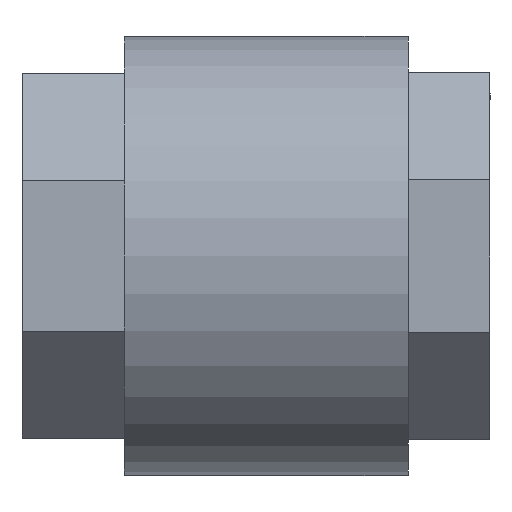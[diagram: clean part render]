
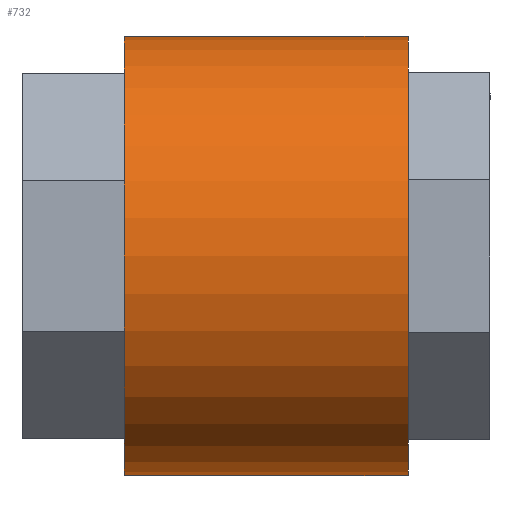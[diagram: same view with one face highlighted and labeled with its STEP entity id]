
A CAD part, front view. The second image highlights one B-rep face of the part: STEP entity #732.
In plain terms, the highlighted cylindrical face has radius 1.555 mm (diameter 3.11 mm), a full revolution.
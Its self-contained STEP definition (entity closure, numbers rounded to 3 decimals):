
#215 = EDGE_CURVE('',#216,#216,#218,.T.);
#216 = VERTEX_POINT('',#217);
#217 = CARTESIAN_POINT('',(0.725,-8.396,2.998));
#218 = SURFACE_CURVE('',#219,(#224,#236),.PCURVE_S1.);
#219 = CIRCLE('',#220,1.555);
#220 = AXIS2_PLACEMENT_3D('',#221,#222,#223);
#221 = CARTESIAN_POINT('',(0.725,-6.841,2.998));
#222 = DIRECTION('',(-1.,0.,0.));
#223 = DIRECTION('',(0.,-1.,0.));
#224 = PCURVE('',#225,#230);
#225 = PLANE('',#226);
#226 = AXIS2_PLACEMENT_3D('',#227,#228,#229);
#227 = CARTESIAN_POINT('',(0.725,-6.841,2.998));
#228 = DIRECTION('',(-1.,0.,0.));
#229 = DIRECTION('',(0.,0.,1.));
#230 = DEFINITIONAL_REPRESENTATION('',(#231),#235);
#231 = CIRCLE('',#232,1.555);
#232 = AXIS2_PLACEMENT_2D('',#233,#234);
#233 = CARTESIAN_POINT('',(0.,0.));
#234 = DIRECTION('',(0.,-1.));
#235 = ( GEOMETRIC_REPRESENTATION_CONTEXT(2) 
PARAMETRIC_REPRESENTATION_CONTEXT() REPRESENTATION_CONTEXT('2D SPACE',''
  ) );
#236 = PCURVE('',#237,#242);
#237 = CYLINDRICAL_SURFACE('',#238,1.555);
#238 = AXIS2_PLACEMENT_3D('',#239,#240,#241);
#239 = CARTESIAN_POINT('',(0.725,-6.841,2.998));
#240 = DIRECTION('',(1.,0.,0.));
#241 = DIRECTION('',(0.,-1.,0.));
#242 = DEFINITIONAL_REPRESENTATION('',(#243),#247);
#243 = LINE('',#244,#245);
#244 = CARTESIAN_POINT('',(6.283,0.));
#245 = VECTOR('',#246,1.);
#246 = DIRECTION('',(-1.,0.));
#247 = ( GEOMETRIC_REPRESENTATION_CONTEXT(2) 
PARAMETRIC_REPRESENTATION_CONTEXT() REPRESENTATION_CONTEXT('2D SPACE',''
  ) );
#478 = EDGE_CURVE('',#479,#479,#481,.T.);
#479 = VERTEX_POINT('',#480);
#480 = CARTESIAN_POINT('',(2.735,-8.396,2.998));
#481 = SURFACE_CURVE('',#482,(#487,#499),.PCURVE_S1.);
#482 = CIRCLE('',#483,1.555);
#483 = AXIS2_PLACEMENT_3D('',#484,#485,#486);
#484 = CARTESIAN_POINT('',(2.735,-6.841,2.998));
#485 = DIRECTION('',(-1.,0.,0.));
#486 = DIRECTION('',(0.,-1.,0.));
#487 = PCURVE('',#488,#493);
#488 = PLANE('',#489);
#489 = AXIS2_PLACEMENT_3D('',#490,#491,#492);
#490 = CARTESIAN_POINT('',(2.735,-6.841,2.998));
#491 = DIRECTION('',(-1.,0.,0.));
#492 = DIRECTION('',(0.,0.,1.));
#493 = DEFINITIONAL_REPRESENTATION('',(#494),#498);
#494 = CIRCLE('',#495,1.555);
#495 = AXIS2_PLACEMENT_2D('',#496,#497);
#496 = CARTESIAN_POINT('',(0.,0.));
#497 = DIRECTION('',(0.,-1.));
#498 = ( GEOMETRIC_REPRESENTATION_CONTEXT(2) 
PARAMETRIC_REPRESENTATION_CONTEXT() REPRESENTATION_CONTEXT('2D SPACE',''
  ) );
#499 = PCURVE('',#237,#500);
#500 = DEFINITIONAL_REPRESENTATION('',(#501),#505);
#501 = LINE('',#502,#503);
#502 = CARTESIAN_POINT('',(6.283,2.01));
#503 = VECTOR('',#504,1.);
#504 = DIRECTION('',(-1.,0.));
#505 = ( GEOMETRIC_REPRESENTATION_CONTEXT(2) 
PARAMETRIC_REPRESENTATION_CONTEXT() REPRESENTATION_CONTEXT('2D SPACE',''
  ) );
#732 = ADVANCED_FACE('',(#733),#237,.T.);
#733 = FACE_BOUND('',#734,.T.);
#734 = EDGE_LOOP('',(#735,#736,#756,#757));
#735 = ORIENTED_EDGE('',*,*,#478,.T.);
#736 = ORIENTED_EDGE('',*,*,#737,.F.);
#737 = EDGE_CURVE('',#216,#479,#738,.T.);
#738 = SEAM_CURVE('',#739,(#742,#749),.PCURVE_S1.);
#739 = B_SPLINE_CURVE_WITH_KNOTS('',1,(#740,#741),.UNSPECIFIED.,.F.,.F.,
  (2,2),(0.,2.01),.PIECEWISE_BEZIER_KNOTS.);
#740 = CARTESIAN_POINT('',(0.725,-8.396,2.998));
#741 = CARTESIAN_POINT('',(2.735,-8.396,2.998));
#742 = PCURVE('',#237,#743);
#743 = DEFINITIONAL_REPRESENTATION('',(#744),#748);
#744 = LINE('',#745,#746);
#745 = CARTESIAN_POINT('',(0.,0.));
#746 = VECTOR('',#747,1.);
#747 = DIRECTION('',(0.,1.));
#748 = ( GEOMETRIC_REPRESENTATION_CONTEXT(2) 
PARAMETRIC_REPRESENTATION_CONTEXT() REPRESENTATION_CONTEXT('2D SPACE',''
  ) );
#749 = PCURVE('',#237,#750);
#750 = DEFINITIONAL_REPRESENTATION('',(#751),#755);
#751 = LINE('',#752,#753);
#752 = CARTESIAN_POINT('',(6.283,0.));
#753 = VECTOR('',#754,1.);
#754 = DIRECTION('',(0.,1.));
#755 = ( GEOMETRIC_REPRESENTATION_CONTEXT(2) 
PARAMETRIC_REPRESENTATION_CONTEXT() REPRESENTATION_CONTEXT('2D SPACE',''
  ) );
#756 = ORIENTED_EDGE('',*,*,#215,.F.);
#757 = ORIENTED_EDGE('',*,*,#737,.T.);
